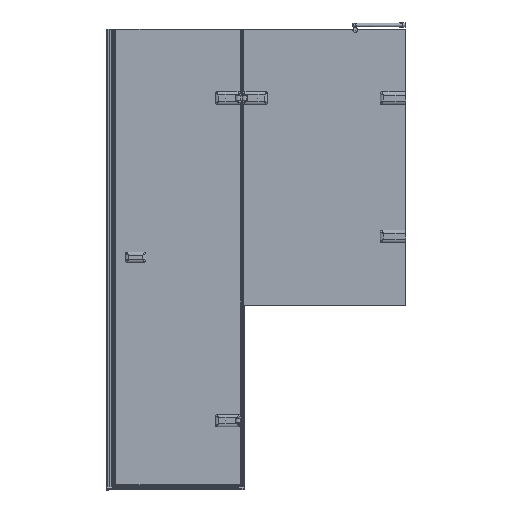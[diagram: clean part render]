
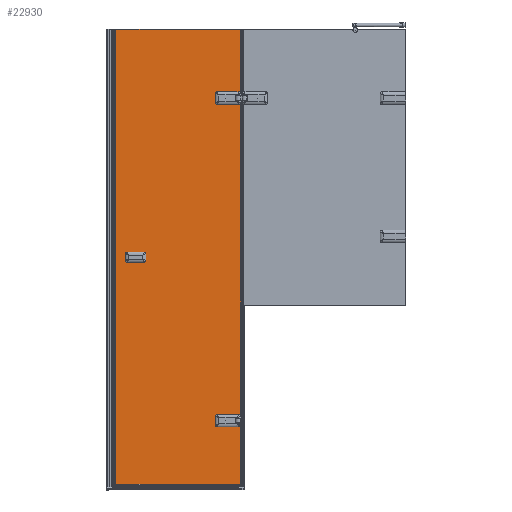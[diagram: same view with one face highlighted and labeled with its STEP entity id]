
A CAD part, front view. The second image highlights one B-rep face of the part: STEP entity #22930.
In plain terms, the highlighted planar face has unit normal (0, -1, 0) as drawn and (0, 1, 0) by its records, which use the part's own axes.
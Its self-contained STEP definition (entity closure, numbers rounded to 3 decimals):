
#1085=FACE_BOUND($,#3618,.T.);
#1086=FACE_BOUND($,#3619,.T.);
#1087=FACE_BOUND($,#3620,.T.);
#1088=FACE_BOUND($,#3621,.T.);
#1089=FACE_BOUND($,#3622,.T.);
#1523=PLANE($,#24500);
#3618=EDGE_LOOP($,(#15945));
#3619=EDGE_LOOP($,(#15946));
#3620=EDGE_LOOP($,(#15947,#15948,#15949,#15950,#15951,#15952,#15953,#15954,
#15955,#15956,#15957,#15958,#15959,#15960,#15961,#15962));
#3621=EDGE_LOOP($,(#15963));
#3622=EDGE_LOOP($,(#15964));
#5360=LINE($,#34232,#7364);
#5364=LINE($,#34244,#7368);
#5369=LINE($,#34259,#7373);
#5373=LINE($,#34271,#7377);
#5374=LINE($,#34284,#7378);
#5377=LINE($,#34290,#7381);
#5380=LINE($,#34306,#7384);
#5385=LINE($,#34315,#7389);
#5386=LINE($,#34318,#7390);
#5387=LINE($,#34320,#7391);
#5388=LINE($,#34321,#7392);
#5389=LINE($,#34322,#7393);
#7364=VECTOR($,#27063,18.);
#7368=VECTOR($,#27075,32.);
#7373=VECTOR($,#27088,18.);
#7377=VECTOR($,#27100,32.);
#7378=VECTOR($,#27115,32.);
#7381=VECTOR($,#27120,32.);
#7384=VECTOR($,#27137,261.);
#7389=VECTOR($,#27144,281.);
#7390=VECTOR($,#27147,550.);
#7391=VECTOR($,#27148,1980.);
#7392=VECTOR($,#27149,550.);
#7393=VECTOR($,#27150,1362.);
#9365=CIRCLE($,#24470,10.);
#9367=CIRCLE($,#24474,10.);
#9369=CIRCLE($,#24478,10.);
#9371=CIRCLE($,#24482,10.);
#9372=CIRCLE($,#24485,5.5);
#9374=CIRCLE($,#24488,5.5);
#9376=CIRCLE($,#24493,8.);
#9378=CIRCLE($,#24496,8.);
#10369=VERTEX_POINT($,#34222);
#10370=VERTEX_POINT($,#34224);
#10372=VERTEX_POINT($,#34230);
#10374=VERTEX_POINT($,#34236);
#10376=VERTEX_POINT($,#34242);
#10379=VERTEX_POINT($,#34249);
#10380=VERTEX_POINT($,#34251);
#10382=VERTEX_POINT($,#34257);
#10384=VERTEX_POINT($,#34263);
#10386=VERTEX_POINT($,#34269);
#10387=VERTEX_POINT($,#34273);
#10389=VERTEX_POINT($,#34278);
#10391=VERTEX_POINT($,#34283);
#10393=VERTEX_POINT($,#34289);
#10395=VERTEX_POINT($,#34295);
#10397=VERTEX_POINT($,#34300);
#10399=VERTEX_POINT($,#34305);
#10402=VERTEX_POINT($,#34313);
#10403=VERTEX_POINT($,#34317);
#10404=VERTEX_POINT($,#34319);
#12614=EDGE_CURVE($,#10369,#10370,#9365,.T.);
#12618=EDGE_CURVE($,#10369,#10372,#5360,.T.);
#12621=EDGE_CURVE($,#10374,#10372,#9367,.T.);
#12624=EDGE_CURVE($,#10374,#10376,#5364,.T.);
#12627=EDGE_CURVE($,#10379,#10380,#9369,.T.);
#12631=EDGE_CURVE($,#10379,#10382,#5369,.T.);
#12634=EDGE_CURVE($,#10384,#10382,#9371,.T.);
#12637=EDGE_CURVE($,#10384,#10386,#5373,.T.);
#12638=EDGE_CURVE($,#10387,#10387,#9372,.T.);
#12640=EDGE_CURVE($,#10389,#10389,#9374,.T.);
#12642=EDGE_CURVE($,#10391,#10370,#5374,.T.);
#12645=EDGE_CURVE($,#10393,#10380,#5377,.T.);
#12648=EDGE_CURVE($,#10395,#10395,#9376,.T.);
#12650=EDGE_CURVE($,#10397,#10397,#9378,.T.);
#12652=EDGE_CURVE($,#10399,#10393,#5380,.T.);
#12657=EDGE_CURVE($,#10376,#10402,#5385,.T.);
#12658=EDGE_CURVE($,#10403,#10402,#5386,.T.);
#12659=EDGE_CURVE($,#10404,#10403,#5387,.T.);
#12660=EDGE_CURVE($,#10404,#10399,#5388,.T.);
#12661=EDGE_CURVE($,#10386,#10391,#5389,.T.);
#15945=ORIENTED_EDGE($,*,*,#12638,.T.);
#15946=ORIENTED_EDGE($,*,*,#12640,.T.);
#15947=ORIENTED_EDGE($,*,*,#12642,.T.);
#15948=ORIENTED_EDGE($,*,*,#12614,.F.);
#15949=ORIENTED_EDGE($,*,*,#12618,.T.);
#15950=ORIENTED_EDGE($,*,*,#12621,.F.);
#15951=ORIENTED_EDGE($,*,*,#12624,.T.);
#15952=ORIENTED_EDGE($,*,*,#12657,.T.);
#15953=ORIENTED_EDGE($,*,*,#12658,.F.);
#15954=ORIENTED_EDGE($,*,*,#12659,.F.);
#15955=ORIENTED_EDGE($,*,*,#12660,.T.);
#15956=ORIENTED_EDGE($,*,*,#12652,.T.);
#15957=ORIENTED_EDGE($,*,*,#12645,.T.);
#15958=ORIENTED_EDGE($,*,*,#12627,.F.);
#15959=ORIENTED_EDGE($,*,*,#12631,.T.);
#15960=ORIENTED_EDGE($,*,*,#12634,.F.);
#15961=ORIENTED_EDGE($,*,*,#12637,.T.);
#15962=ORIENTED_EDGE($,*,*,#12661,.T.);
#15963=ORIENTED_EDGE($,*,*,#12650,.T.);
#15964=ORIENTED_EDGE($,*,*,#12648,.T.);
#22930=ADVANCED_FACE($,(#1085,#1086,#1087,#1088,#1089),#1523,.T.);
#24470=AXIS2_PLACEMENT_3D($,#34225,#27056,#27057);
#24474=AXIS2_PLACEMENT_3D($,#34238,#27069,#27070);
#24478=AXIS2_PLACEMENT_3D($,#34252,#27081,#27082);
#24482=AXIS2_PLACEMENT_3D($,#34265,#27094,#27095);
#24485=AXIS2_PLACEMENT_3D($,#34274,#27103,#27104);
#24488=AXIS2_PLACEMENT_3D($,#34279,#27109,#27110);
#24493=AXIS2_PLACEMENT_3D($,#34296,#27125,#27126);
#24496=AXIS2_PLACEMENT_3D($,#34301,#27131,#27132);
#24500=AXIS2_PLACEMENT_3D($,#34316,#27145,#27146);
#27056=DIRECTION('center_axis',(0.,1.,0.));
#27057=DIRECTION('ref_axis',(0.707,0.,-0.707));
#27063=DIRECTION($,(0.,0.,1.));
#27069=DIRECTION('center_axis',(0.,1.,0.));
#27070=DIRECTION('ref_axis',(0.707,0.,0.707));
#27075=DIRECTION($,(-1.,0.,0.));
#27081=DIRECTION('center_axis',(0.,1.,0.));
#27082=DIRECTION('ref_axis',(0.707,0.,-0.707));
#27088=DIRECTION($,(0.,0.,1.));
#27094=DIRECTION('center_axis',(0.,1.,0.));
#27095=DIRECTION('ref_axis',(0.707,0.,0.707));
#27100=DIRECTION($,(-1.,0.,0.));
#27103=DIRECTION('center_axis',(0.,-1.,0.));
#27104=DIRECTION('ref_axis',(-1.,0.,0.));
#27109=DIRECTION('center_axis',(0.,-1.,0.));
#27110=DIRECTION('ref_axis',(-1.,0.,0.));
#27115=DIRECTION($,(1.,0.,0.));
#27120=DIRECTION($,(1.,0.,0.));
#27125=DIRECTION('center_axis',(0.,-1.,0.));
#27126=DIRECTION('ref_axis',(-1.,0.,0.));
#27131=DIRECTION('center_axis',(0.,-1.,0.));
#27132=DIRECTION('ref_axis',(-1.,0.,0.));
#27137=DIRECTION($,(0.,0.,1.));
#27144=DIRECTION($,(0.,0.,1.));
#27145=DIRECTION('center_axis',(0.,1.,0.));
#27146=DIRECTION('ref_axis',(-1.,0.,0.));
#27147=DIRECTION($,(-1.,0.,0.));
#27148=DIRECTION($,(0.,0.,1.));
#27149=DIRECTION($,(-1.,0.,0.));
#27150=DIRECTION($,(0.,0.,1.));
#34222=CARTESIAN_POINT('',(42.,6.,1671.));
#34224=CARTESIAN_POINT('',(32.,6.,1661.));
#34225=CARTESIAN_POINT('Origin',(32.,6.,1671.));
#34230=CARTESIAN_POINT('',(42.,6.,1689.));
#34232=CARTESIAN_POINT($,(42.,6.,849.5));
#34236=CARTESIAN_POINT('',(32.,6.,1699.));
#34238=CARTESIAN_POINT('Origin',(32.,6.,1689.));
#34242=CARTESIAN_POINT('',(0.,6.,1699.));
#34244=CARTESIAN_POINT($,(275.,6.,1699.));
#34249=CARTESIAN_POINT('',(42.,6.,271.));
#34251=CARTESIAN_POINT('',(32.,6.,261.));
#34252=CARTESIAN_POINT('Origin',(32.,6.,271.));
#34257=CARTESIAN_POINT('',(42.,6.,289.));
#34259=CARTESIAN_POINT($,(42.,6.,149.5));
#34263=CARTESIAN_POINT('',(32.,6.,299.));
#34265=CARTESIAN_POINT('Origin',(32.,6.,289.));
#34269=CARTESIAN_POINT('',(0.,6.,299.));
#34271=CARTESIAN_POINT($,(275.,6.,299.));
#34273=CARTESIAN_POINT('',(485.5,6.,976.));
#34274=CARTESIAN_POINT('Origin',(480.,6.,976.));
#34278=CARTESIAN_POINT('',(485.5,6.,1004.));
#34279=CARTESIAN_POINT('Origin',(480.,6.,1004.));
#34283=CARTESIAN_POINT('',(0.,6.,1661.));
#34284=CARTESIAN_POINT($,(296.,6.,1661.));
#34289=CARTESIAN_POINT('',(0.,6.,261.));
#34290=CARTESIAN_POINT($,(296.,6.,261.));
#34295=CARTESIAN_POINT('',(73.,6.,1680.));
#34296=CARTESIAN_POINT('Origin',(65.,6.,1680.));
#34300=CARTESIAN_POINT('',(73.,6.,280.));
#34301=CARTESIAN_POINT('Origin',(65.,6.,280.));
#34305=CARTESIAN_POINT('',(0.,6.,0.));
#34306=CARTESIAN_POINT($,(0.,6.,0.));
#34313=CARTESIAN_POINT('',(0.,6.,1980.));
#34315=CARTESIAN_POINT($,(0.,6.,0.));
#34316=CARTESIAN_POINT('Origin',(550.,6.,0.));
#34317=CARTESIAN_POINT('',(550.,6.,1980.));
#34318=CARTESIAN_POINT($,(550.,6.,1980.));
#34319=CARTESIAN_POINT('',(550.,6.,0.));
#34320=CARTESIAN_POINT($,(550.,6.,0.));
#34321=CARTESIAN_POINT($,(550.,6.,0.));
#34322=CARTESIAN_POINT($,(0.,6.,0.));
